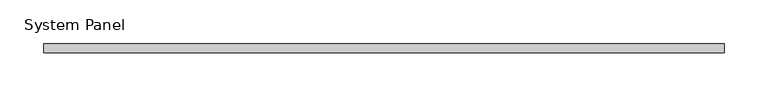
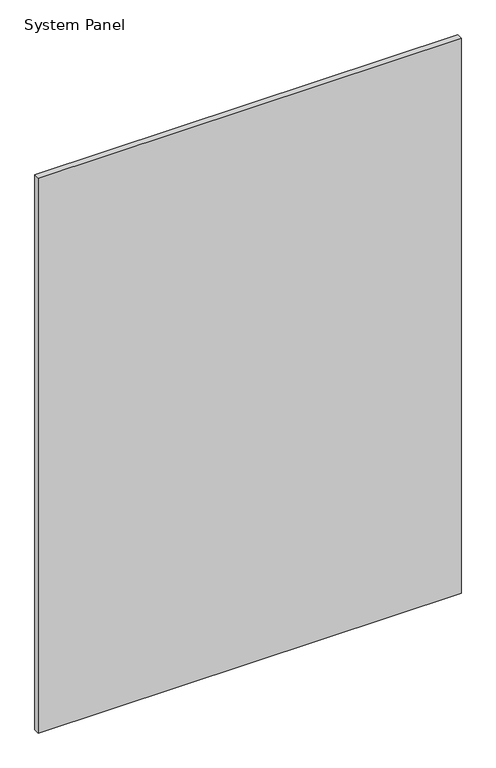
"""IFC4 building model written with IfcOpenShell, lengths in millimetres: plate geometry, System Panel : стекло_смещение_20."""

from ifc_helpers import new_model, si_unit, origin, origin_with_axes, place, context, project, spatial, polyline, outline, extrude, source, transform, mapped, element, save


def system_panel_ca77d6c9(model_context):
    return source(origin(), model_context, "Body", "SweptSolid", [
        extrude(outline(polyline([(387.5, 15.0), (-387.5, 15.0), (-387.5, 25.0), (387.5, 25.0), (387.5, 15.0)])), origin_with_axes(), (0.0, 0.0, 1.0), 1075.0),
    ])


if __name__ == "__main__":
    model = new_model("IFC4")
    model_context = context("Model", 3, world=origin())
    ifc_project = project(units=[si_unit("LENGTHUNIT", "METRE", prefix="MILLI")], contexts=[model_context])
    site = spatial("IfcSite", under=ifc_project)
    building = spatial("IfcBuilding", under=site)
    placement = place(None, origin())
    system_panel_shape = system_panel_ca77d6c9(model_context)
    element("IfcPlate", 1, ObjectType="System Panel : стекло_смещение_20", at=placement, inside=building, context=model_context, shape_type="MappedRepresentation", body=[
        mapped(system_panel_shape, transform((0.0, 0.0, 0.0), x_axis=(1.0, 0.0, 0.0), y_axis=(0.0, 1.0, 0.0), z_axis=(0.0, 0.0, 1.0))),
    ])
    save(model, "model.ifc")
